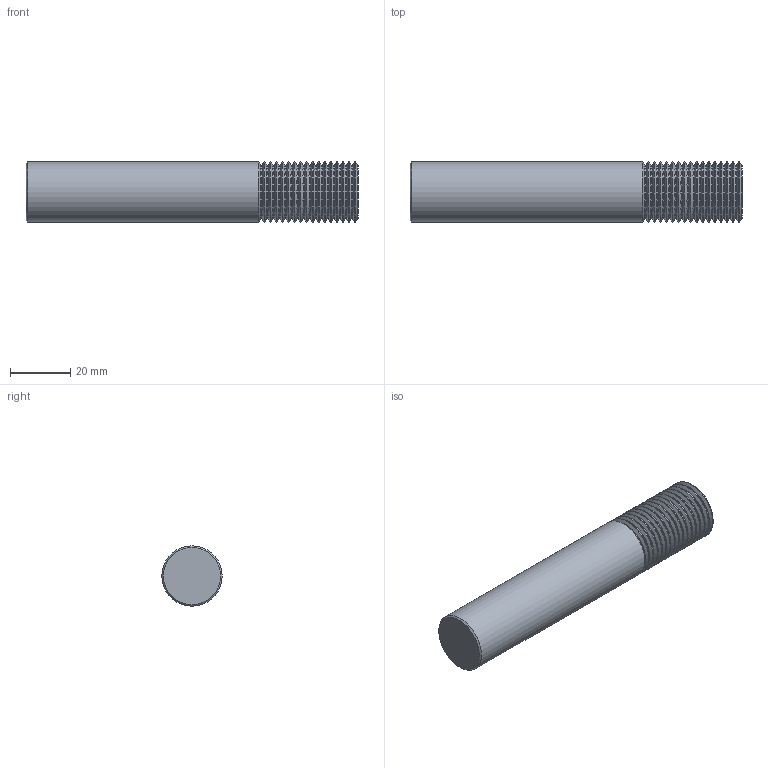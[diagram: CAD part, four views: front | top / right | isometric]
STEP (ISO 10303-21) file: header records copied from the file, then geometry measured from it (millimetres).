
FILE_DESCRIPTION(/* description */ (''),/* implementation_level */ '2;1');
FILE_NAME(/* name */ '00035658-TDM',/* time_stamp */ '2024-02-13T15:00:08+01:00',/* author */ (''),/* organization */ (''),/* preprocessor_version */ 'ST-DEVELOPER v16.5',/* originating_system */ 'HiCAD 2017 2201.0 Build 268',/* authorisation */ '');
FILE_SCHEMA (('AUTOMOTIVE_DESIGN { 1 0 10303 214 1 1 1 1 }'));
Length unit declared in the file: millimetre
Products named in the file (3): Root; ROTATIONSTEIL_2
Assembly tree (2 placements, depth 3):
  Root
    ROTATIONSTEIL_2
      ROTATIONSTEIL_2
Bounding box: 110 x 20 x 20 mm (x, y, z)
Volume: 33215.2 mm3; surface area: 9018.9 mm2
Topology: 2 solids, 2 shells, 106 faces, 207 edges, 105 vertices
Faces by surface type: cylinder 35, cone 34, torus 33, plane 4
Full cylindrical faces by diameter (mm): 17.734 x18, 19.95 x16, 20 x1
Entity records: 3204 total; most frequent: DIRECTION 428, CARTESIAN_POINT 318, AXIS2_PLACEMENT_3D 214, PRESENTATION_STYLE_ASSIGNMENT 210, COLOUR_RGB 210, DRAUGHTING_PRE_DEFINED_CURVE_FONT 208, CURVE_STYLE 208, OVER_RIDING_STYLED_ITEM 208
